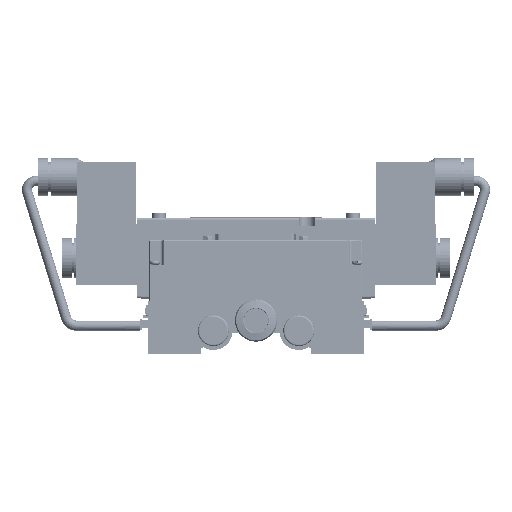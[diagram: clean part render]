
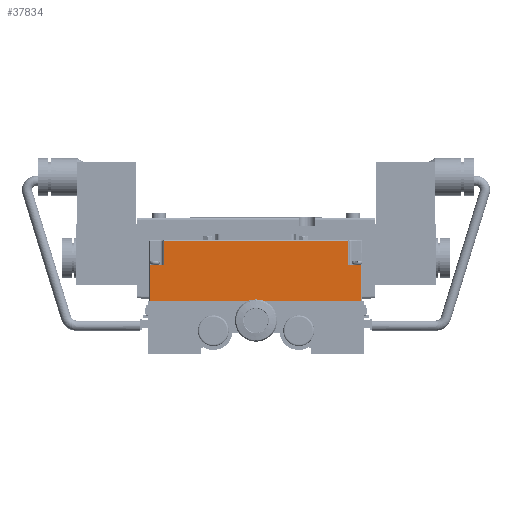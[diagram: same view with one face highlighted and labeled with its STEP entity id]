
A CAD part, front view. The second image highlights one B-rep face of the part: STEP entity #37834.
In plain terms, the highlighted planar face has unit normal (0, -1, 0).
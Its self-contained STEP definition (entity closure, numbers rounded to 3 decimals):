
#969 = DIRECTION ( 'NONE',  ( -1., 0., 0. ) ) ;
#1935 = VECTOR ( 'NONE', #70835, 1000. ) ;
#2094 = VERTEX_POINT ( 'NONE', #53237 ) ;
#3485 = DIRECTION ( 'NONE',  ( 0., 0., 1. ) ) ;
#5068 = VECTOR ( 'NONE', #32871, 1000. ) ;
#6579 = DIRECTION ( 'NONE',  ( -1., 0., 0. ) ) ;
#10941 = LINE ( 'NONE', #36211, #73327 ) ;
#11564 = CARTESIAN_POINT ( 'NONE',  ( 0.3, 15.005, 44. ) ) ;
#12520 = VERTEX_POINT ( 'NONE', #13904 ) ;
#13904 = CARTESIAN_POINT ( 'NONE',  ( -105.4, 15.005, 26. ) ) ;
#15345 = EDGE_CURVE ( 'NONE', #81453, #59209, #50319, .T. ) ;
#17601 = ORIENTED_EDGE ( 'NONE', *, *, #80372, .T. ) ;
#17764 = CARTESIAN_POINT ( 'NONE',  ( -105.4, 15.005, 44. ) ) ;
#18177 = VECTOR ( 'NONE', #58125, 1000. ) ;
#19066 = CARTESIAN_POINT ( 'NONE',  ( -8.21, 15.005, 44. ) ) ;
#19950 = EDGE_CURVE ( 'NONE', #57629, #12520, #80136, .T. ) ;
#20054 = ORIENTED_EDGE ( 'NONE', *, *, #19950, .T. ) ;
#20239 = CARTESIAN_POINT ( 'NONE',  ( -99.09, 15.005, 55.5 ) ) ;
#20589 = LINE ( 'NONE', #46271, #33500 ) ;
#23239 = AXIS2_PLACEMENT_3D ( 'NONE', #57544, #39703, #6579 ) ;
#26415 = VECTOR ( 'NONE', #969, 1000. ) ;
#30280 = ORIENTED_EDGE ( 'NONE', *, *, #68440, .F. ) ;
#32016 = CARTESIAN_POINT ( 'NONE',  ( -1.31, 15.005, 26. ) ) ;
#32853 = VERTEX_POINT ( 'NONE', #51203 ) ;
#32871 = DIRECTION ( 'NONE',  ( 0., 0., 1. ) ) ;
#33500 = VECTOR ( 'NONE', #65766, 1000. ) ;
#36211 = CARTESIAN_POINT ( 'NONE',  ( -8.21, 15.005, 56. ) ) ;
#37834 = ADVANCED_FACE ( 'NONE', ( #70398 ), #63353, .T. ) ;
#39703 = DIRECTION ( 'NONE',  ( 0., -1., 0. ) ) ;
#41402 = LINE ( 'NONE', #11564, #41544 ) ;
#41544 = VECTOR ( 'NONE', #55912, 1000. ) ;
#42470 = VECTOR ( 'NONE', #71873, 1000. ) ;
#44990 = ORIENTED_EDGE ( 'NONE', *, *, #15345, .T. ) ;
#46271 = CARTESIAN_POINT ( 'NONE',  ( -107.1, 15.005, 44. ) ) ;
#49239 = EDGE_CURVE ( 'NONE', #2094, #32853, #64206, .T. ) ;
#50319 = LINE ( 'NONE', #64009, #5068 ) ;
#51203 = CARTESIAN_POINT ( 'NONE',  ( -98.59, 15.005, 55.5 ) ) ;
#53237 = CARTESIAN_POINT ( 'NONE',  ( -8.21, 15.005, 55.5 ) ) ;
#54809 = VERTEX_POINT ( 'NONE', #61873 ) ;
#55776 = CARTESIAN_POINT ( 'NONE',  ( -1.81, 15.005, 26. ) ) ;
#55912 = DIRECTION ( 'NONE',  ( -1., 0., 0. ) ) ;
#57544 = CARTESIAN_POINT ( 'NONE',  ( -1.31, 15.005, 56. ) ) ;
#57629 = VERTEX_POINT ( 'NONE', #17764 ) ;
#57710 = LINE ( 'NONE', #77596, #18177 ) ;
#58125 = DIRECTION ( 'NONE',  ( 0., 0., -1. ) ) ;
#59209 = VERTEX_POINT ( 'NONE', #66297 ) ;
#59456 = EDGE_CURVE ( 'NONE', #59209, #63643, #41402, .T. ) ;
#61068 = CARTESIAN_POINT ( 'NONE',  ( -105.4, 15.005, 56. ) ) ;
#61873 = CARTESIAN_POINT ( 'NONE',  ( -98.59, 15.005, 44. ) ) ;
#63353 = PLANE ( 'NONE',  #23239 ) ;
#63559 = LINE ( 'NONE', #32016, #26415 ) ;
#63643 = VERTEX_POINT ( 'NONE', #19066 ) ;
#64009 = CARTESIAN_POINT ( 'NONE',  ( -1.81, 15.005, 56. ) ) ;
#64206 = LINE ( 'NONE', #20239, #1935 ) ;
#65766 = DIRECTION ( 'NONE',  ( 1., 0., 0. ) ) ;
#66297 = CARTESIAN_POINT ( 'NONE',  ( -1.81, 15.005, 44. ) ) ;
#67342 = ORIENTED_EDGE ( 'NONE', *, *, #59456, .T. ) ;
#67673 = ORIENTED_EDGE ( 'NONE', *, *, #74180, .T. ) ;
#68440 = EDGE_CURVE ( 'NONE', #81453, #12520, #63559, .T. ) ;
#69928 = EDGE_LOOP ( 'NONE', ( #30280, #44990, #67342, #67673, #72972, #17601, #73543, #20054 ) ) ;
#70398 = FACE_OUTER_BOUND ( 'NONE', #69928, .T. ) ;
#70835 = DIRECTION ( 'NONE',  ( -1., 0., 0. ) ) ;
#71873 = DIRECTION ( 'NONE',  ( 0., 0., -1. ) ) ;
#72285 = EDGE_CURVE ( 'NONE', #57629, #54809, #20589, .T. ) ;
#72972 = ORIENTED_EDGE ( 'NONE', *, *, #49239, .T. ) ;
#73327 = VECTOR ( 'NONE', #3485, 1000. ) ;
#73543 = ORIENTED_EDGE ( 'NONE', *, *, #72285, .F. ) ;
#74180 = EDGE_CURVE ( 'NONE', #63643, #2094, #10941, .T. ) ;
#77596 = CARTESIAN_POINT ( 'NONE',  ( -98.59, 15.005, 44. ) ) ;
#80136 = LINE ( 'NONE', #61068, #42470 ) ;
#80372 = EDGE_CURVE ( 'NONE', #32853, #54809, #57710, .T. ) ;
#81453 = VERTEX_POINT ( 'NONE', #55776 ) ;
